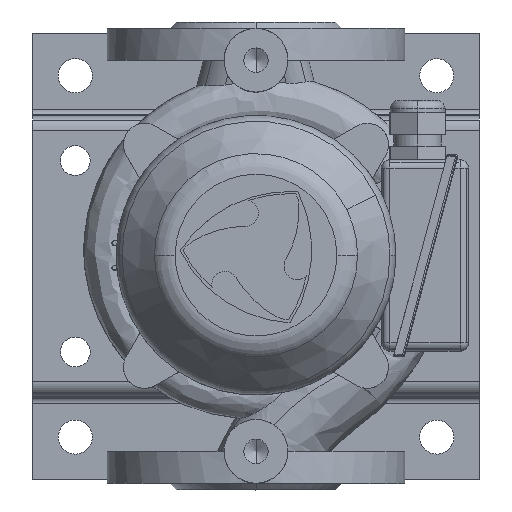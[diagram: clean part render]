
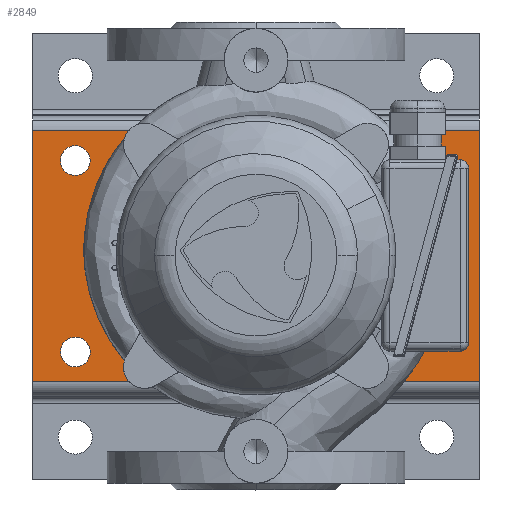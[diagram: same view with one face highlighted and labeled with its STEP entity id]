
A CAD part, top view. The second image highlights one B-rep face of the part: STEP entity #2849.
In plain terms, the highlighted planar face has unit normal (0, 0, 1) as drawn and (0, 1, 0) by its records, which use the part's own axes.
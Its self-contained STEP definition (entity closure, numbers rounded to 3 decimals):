
#2849=ADVANCED_FACE('',(#6621,#6622,#6623,#6624,#6625),#6626,.T.);
#2901=EDGE_CURVE('',#6714,#6715,#6716,.T.);
#2909=EDGE_CURVE('',#6730,#6731,#6732,.T.);
#2917=EDGE_CURVE('',#6746,#6747,#6748,.T.);
#2925=EDGE_CURVE('',#6762,#6763,#6764,.T.);
#2969=EDGE_CURVE('',#6835,#6838,#6839,.T.);
#2993=EDGE_CURVE('',#6870,#6873,#6874,.T.);
#3013=EDGE_CURVE('',#6873,#6835,#6898,.T.);
#3015=EDGE_CURVE('',#6870,#6838,#6900,.T.);
#3017=EDGE_CURVE('',#6763,#6762,#6902,.T.);
#3019=EDGE_CURVE('',#6747,#6746,#6904,.T.);
#3021=EDGE_CURVE('',#6731,#6730,#6906,.T.);
#3023=EDGE_CURVE('',#6715,#6714,#6908,.T.);
#6621=FACE_OUTER_BOUND('',#15132,.T.);
#6622=FACE_BOUND('',#15133,.T.);
#6623=FACE_BOUND('',#15134,.T.);
#6624=FACE_BOUND('',#15135,.T.);
#6625=FACE_BOUND('',#15136,.T.);
#6626=PLANE('',#15137);
#6714=VERTEX_POINT('',#15227);
#6715=VERTEX_POINT('',#15228);
#6716=CIRCLE('',#15229,5.5);
#6730=VERTEX_POINT('',#15247);
#6731=VERTEX_POINT('',#15248);
#6732=CIRCLE('',#15249,7.);
#6746=VERTEX_POINT('',#15267);
#6747=VERTEX_POINT('',#15268);
#6748=CIRCLE('',#15269,7.);
#6762=VERTEX_POINT('',#15287);
#6763=VERTEX_POINT('',#15288);
#6764=CIRCLE('',#15289,7.0);
#6835=VERTEX_POINT('',#15387);
#6838=VERTEX_POINT('',#15391);
#6839=LINE('',#15392,#15393);
#6870=VERTEX_POINT('',#15438);
#6873=VERTEX_POINT('',#15442);
#6874=LINE('',#15443,#15444);
#6898=LINE('',#15482,#15483);
#6900=LINE('',#15486,#15487);
#6902=CIRCLE('',#15490,7.0);
#6904=CIRCLE('',#15493,7.);
#6906=CIRCLE('',#15496,7.);
#6908=CIRCLE('',#15499,5.5);
#15132=EDGE_LOOP('',(#22155,#22156,#22157,#22158));
#15133=EDGE_LOOP('',(#22159,#22160));
#15134=EDGE_LOOP('',(#22161,#22162));
#15135=EDGE_LOOP('',(#22163,#22164));
#15136=EDGE_LOOP('',(#22165,#22166));
#15137=AXIS2_PLACEMENT_3D('',#22167,#22168,#22169);
#15227=CARTESIAN_POINT('',(-3.111,43.,100.464));
#15228=CARTESIAN_POINT('',(3.111,43.,109.536));
#15229=AXIS2_PLACEMENT_3D('',#22433,#22434,#22435);
#15247=CARTESIAN_POINT('',(-38.825,43.,23.297));
#15248=CARTESIAN_POINT('',(-51.175,43.,16.703));
#15249=AXIS2_PLACEMENT_3D('',#22445,#22446,#22447);
#15267=CARTESIAN_POINT('',(0.,43.,148.));
#15268=CARTESIAN_POINT('',(0.,43.,162.));
#15269=AXIS2_PLACEMENT_3D('',#22457,#22458,#22459);
#15287=CARTESIAN_POINT('',(45.,43.,27.));
#15288=CARTESIAN_POINT('',(45.,43.,13.));
#15289=AXIS2_PLACEMENT_3D('',#22469,#22470,#22471);
#15387=CARTESIAN_POINT('',(59.,43.,0.));
#15391=CARTESIAN_POINT('',(59.,43.,210.));
#15392=CARTESIAN_POINT('',(59.,43.,0.));
#15393=VECTOR('',#22523,1.0);
#15438=CARTESIAN_POINT('',(-59.,43.,210.));
#15442=CARTESIAN_POINT('',(-59.,43.,0.));
#15443=CARTESIAN_POINT('',(-59.,43.,210.));
#15444=VECTOR('',#22551,1.0);
#15482=CARTESIAN_POINT('',(-59.,43.,0.));
#15483=VECTOR('',#22571,1.0);
#15486=CARTESIAN_POINT('',(-59.,43.,210.));
#15487=VECTOR('',#22572,1.0);
#15490=AXIS2_PLACEMENT_3D('',#22573,#22574,#22575);
#15493=AXIS2_PLACEMENT_3D('',#22576,#22577,#22578);
#15496=AXIS2_PLACEMENT_3D('',#22579,#22580,#22581);
#15499=AXIS2_PLACEMENT_3D('',#22582,#22583,#22584);
#22155=ORIENTED_EDGE('',*,*,#2969,.F.);
#22156=ORIENTED_EDGE('',*,*,#3013,.F.);
#22157=ORIENTED_EDGE('',*,*,#2993,.F.);
#22158=ORIENTED_EDGE('',*,*,#3015,.T.);
#22159=ORIENTED_EDGE('',*,*,#2925,.T.);
#22160=ORIENTED_EDGE('',*,*,#3017,.T.);
#22161=ORIENTED_EDGE('',*,*,#2917,.T.);
#22162=ORIENTED_EDGE('',*,*,#3019,.T.);
#22163=ORIENTED_EDGE('',*,*,#2909,.T.);
#22164=ORIENTED_EDGE('',*,*,#3021,.T.);
#22165=ORIENTED_EDGE('',*,*,#2901,.T.);
#22166=ORIENTED_EDGE('',*,*,#3023,.T.);
#22167=CARTESIAN_POINT('',(-66.,43.,0.0));
#22168=DIRECTION('',(0.0,1.0,0.0));
#22169=DIRECTION('',(0.0,0.0,1.0));
#22433=CARTESIAN_POINT('',(0.,43.,105.));
#22434=DIRECTION('',(0.0,-1.0,-0.0));
#22435=DIRECTION('',(-0.566,0.0,-0.825));
#22445=CARTESIAN_POINT('',(-45.,43.,20.));
#22446=DIRECTION('',(0.0,-1.0,0.0));
#22447=DIRECTION('',(0.882,0.0,0.471));
#22457=CARTESIAN_POINT('',(0.,43.,155.));
#22458=DIRECTION('',(0.0,-1.0,0.0));
#22459=DIRECTION('',(0.,0.0,-1.0));
#22469=CARTESIAN_POINT('',(45.,43.,20.));
#22470=DIRECTION('',(0.0,-1.0,0.0));
#22471=DIRECTION('',(0.,0.0,1.0));
#22523=DIRECTION('',(0.,0.,1.0));
#22551=DIRECTION('',(0.,0.,-1.0));
#22571=DIRECTION('',(1.0,0.0,0.));
#22572=DIRECTION('',(1.0,0.0,0.));
#22573=CARTESIAN_POINT('',(45.,43.,20.));
#22574=DIRECTION('',(0.0,-1.0,0.0));
#22575=DIRECTION('',(0.,0.0,1.0));
#22576=CARTESIAN_POINT('',(0.,43.,155.));
#22577=DIRECTION('',(0.0,-1.0,0.0));
#22578=DIRECTION('',(0.,0.0,-1.0));
#22579=CARTESIAN_POINT('',(-45.,43.,20.));
#22580=DIRECTION('',(0.0,-1.0,0.0));
#22581=DIRECTION('',(0.882,0.0,0.471));
#22582=CARTESIAN_POINT('',(0.,43.,105.));
#22583=DIRECTION('',(0.0,-1.0,-0.0));
#22584=DIRECTION('',(-0.566,0.0,-0.825));
